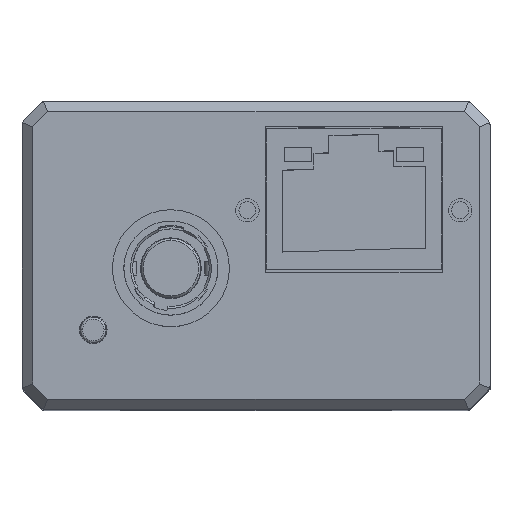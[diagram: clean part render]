
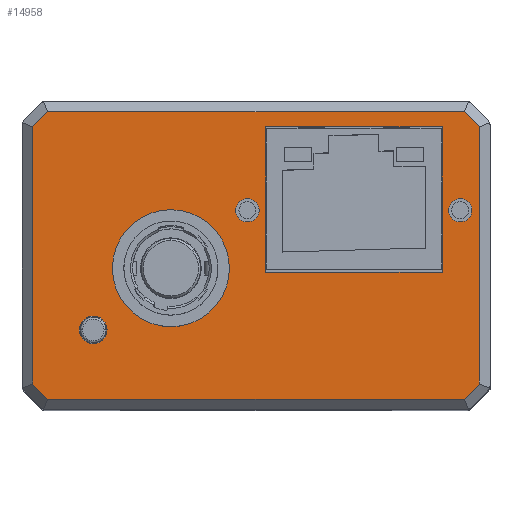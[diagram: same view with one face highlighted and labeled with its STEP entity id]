
A CAD part, top view. The second image highlights one B-rep face of the part: STEP entity #14958.
In plain terms, the highlighted planar face has unit normal (0, 0, 1).
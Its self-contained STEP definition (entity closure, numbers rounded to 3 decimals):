
#1079=DIRECTION('',(0.,-1.,0.));
#1080=VECTOR('',#1079,24.172);
#1081=CARTESIAN_POINT('',(-21.,12.086,59.));
#1082=LINE('',#1081,#1080);
#1367=DIRECTION('',(-0.707,-0.707,0.));
#1368=VECTOR('',#1367,2.);
#1369=CARTESIAN_POINT('',(21.,-12.086,59.));
#1370=LINE('',#1369,#1368);
#1371=DIRECTION('',(-1.,0.,0.));
#1372=VECTOR('',#1371,39.172);
#1373=CARTESIAN_POINT('',(19.586,-13.5,59.));
#1374=LINE('',#1373,#1372);
#1375=DIRECTION('',(-0.707,0.707,0.));
#1376=VECTOR('',#1375,2.);
#1377=CARTESIAN_POINT('',(-19.586,-13.5,59.));
#1378=LINE('',#1377,#1376);
#1379=DIRECTION('',(0.707,0.707,0.));
#1380=VECTOR('',#1379,2.);
#1381=CARTESIAN_POINT('',(-21.,12.086,59.));
#1382=LINE('',#1381,#1380);
#1383=DIRECTION('',(1.,0.,0.));
#1384=VECTOR('',#1383,39.172);
#1385=CARTESIAN_POINT('',(-19.586,13.5,59.));
#1386=LINE('',#1385,#1384);
#1387=DIRECTION('',(0.707,-0.707,0.));
#1388=VECTOR('',#1387,2.);
#1389=CARTESIAN_POINT('',(19.586,13.5,59.));
#1390=LINE('',#1389,#1388);
#1391=CARTESIAN_POINT('',(-0.804,4.25,59.));
#1392=DIRECTION('',(0.,0.,1.));
#1393=DIRECTION('',(1.,0.,0.));
#1394=AXIS2_PLACEMENT_3D('',#1391,#1392,#1393);
#1396=CARTESIAN_POINT('',(-0.804,4.25,59.));
#1397=DIRECTION('',(0.,0.,1.));
#1398=DIRECTION('',(-1.,0.,0.));
#1399=AXIS2_PLACEMENT_3D('',#1396,#1397,#1398);
#1401=CARTESIAN_POINT('',(19.196,4.25,59.));
#1402=DIRECTION('',(0.,0.,1.));
#1403=DIRECTION('',(1.,0.,0.));
#1404=AXIS2_PLACEMENT_3D('',#1401,#1402,#1403);
#1406=CARTESIAN_POINT('',(19.196,4.25,59.));
#1407=DIRECTION('',(0.,0.,1.));
#1408=DIRECTION('',(-1.,0.,0.));
#1409=AXIS2_PLACEMENT_3D('',#1406,#1407,#1408);
#1411=CARTESIAN_POINT('',(-15.3,-7.,59.));
#1412=DIRECTION('',(0.,0.,1.));
#1413=DIRECTION('',(1.,0.,0.));
#1414=AXIS2_PLACEMENT_3D('',#1411,#1412,#1413);
#1416=CARTESIAN_POINT('',(-15.3,-7.,59.));
#1417=DIRECTION('',(0.,0.,1.));
#1418=DIRECTION('',(-1.,0.,0.));
#1419=AXIS2_PLACEMENT_3D('',#1416,#1417,#1418);
#1421=CARTESIAN_POINT('',(-8.,-1.2,59.));
#1422=DIRECTION('',(0.,0.,1.));
#1423=DIRECTION('',(1.,0.,0.));
#1424=AXIS2_PLACEMENT_3D('',#1421,#1422,#1423);
#1426=CARTESIAN_POINT('',(-8.,-1.2,59.));
#1427=DIRECTION('',(0.,0.,1.));
#1428=DIRECTION('',(-1.,0.,0.));
#1429=AXIS2_PLACEMENT_3D('',#1426,#1427,#1428);
#1431=DIRECTION('',(0.,1.,0.));
#1432=VECTOR('',#1431,24.172);
#1433=CARTESIAN_POINT('',(21.,-12.086,59.));
#1434=LINE('',#1433,#1432);
#1531=DIRECTION('',(0.,-1.,0.));
#1532=VECTOR('',#1531,13.7);
#1533=CARTESIAN_POINT('',(17.5,12.1,59.));
#1534=LINE('',#1533,#1532);
#1591=DIRECTION('',(0.,1.,0.));
#1592=VECTOR('',#1591,13.7);
#1593=CARTESIAN_POINT('',(0.9,-1.6,59.));
#1594=LINE('',#1593,#1592);
#2347=DIRECTION('',(-1.,0.,0.));
#2348=VECTOR('',#2347,16.6);
#2349=CARTESIAN_POINT('',(17.5,-1.6,59.));
#2350=LINE('',#2349,#2348);
#2363=DIRECTION('',(1.,0.,0.));
#2364=VECTOR('',#2363,16.6);
#2365=CARTESIAN_POINT('',(0.9,12.1,59.));
#2366=LINE('',#2365,#2364);
#10546=CARTESIAN_POINT('',(19.586,-13.5,59.));
#10547=CARTESIAN_POINT('',(-19.586,-13.5,59.));
#10548=VERTEX_POINT('',#10546);
#10549=VERTEX_POINT('',#10547);
#10552=CARTESIAN_POINT('',(-21.,-12.086,59.));
#10553=VERTEX_POINT('',#10552);
#10722=CARTESIAN_POINT('',(21.,12.086,59.));
#10723=VERTEX_POINT('',#10722);
#10724=CARTESIAN_POINT('',(19.586,13.5,59.));
#10725=VERTEX_POINT('',#10724);
#10732=CARTESIAN_POINT('',(-19.586,13.5,59.));
#10733=VERTEX_POINT('',#10732);
#10766=CARTESIAN_POINT('',(-21.,12.086,59.));
#10768=VERTEX_POINT('',#10766);
#10770=CARTESIAN_POINT('',(21.,-12.086,59.));
#10771=VERTEX_POINT('',#10770);
#10772=CARTESIAN_POINT('',(0.296,4.25,59.));
#10773=CARTESIAN_POINT('',(-1.904,4.25,59.));
#10774=VERTEX_POINT('',#10772);
#10775=VERTEX_POINT('',#10773);
#10776=CARTESIAN_POINT('',(20.296,4.25,59.));
#10777=CARTESIAN_POINT('',(18.096,4.25,59.));
#10778=VERTEX_POINT('',#10776);
#10779=VERTEX_POINT('',#10777);
#10780=CARTESIAN_POINT('',(-14.,-7.,59.));
#10781=CARTESIAN_POINT('',(-16.6,-7.,59.));
#10782=VERTEX_POINT('',#10780);
#10783=VERTEX_POINT('',#10781);
#10784=CARTESIAN_POINT('',(-2.5,-1.2,59.));
#10785=CARTESIAN_POINT('',(-13.5,-1.2,59.));
#10786=VERTEX_POINT('',#10784);
#10787=VERTEX_POINT('',#10785);
#11418=CARTESIAN_POINT('',(17.5,12.1,59.));
#11419=CARTESIAN_POINT('',(17.5,-1.6,59.));
#11420=VERTEX_POINT('',#11418);
#11421=VERTEX_POINT('',#11419);
#11502=CARTESIAN_POINT('',(0.9,-1.6,59.));
#11503=CARTESIAN_POINT('',(0.9,12.1,59.));
#11504=VERTEX_POINT('',#11502);
#11505=VERTEX_POINT('',#11503);
#14906=CARTESIAN_POINT('',(0.,0.,59.));
#14907=DIRECTION('',(0.,0.,1.));
#14908=DIRECTION('',(1.,0.,0.));
#14909=AXIS2_PLACEMENT_3D('',#14906,#14907,#14908);
#14910=PLANE('',#14909);
#14912=ORIENTED_EDGE('',*,*,#14911,.F.);
#14914=ORIENTED_EDGE('',*,*,#14913,.T.);
#14916=ORIENTED_EDGE('',*,*,#14915,.T.);
#14917=ORIENTED_EDGE('',*,*,#14897,.T.);
#14918=ORIENTED_EDGE('',*,*,#14577,.F.);
#14919=ORIENTED_EDGE('',*,*,#14608,.T.);
#14920=ORIENTED_EDGE('',*,*,#14626,.T.);
#14921=ORIENTED_EDGE('',*,*,#14643,.T.);
#14922=EDGE_LOOP('',(#14912,#14914,#14916,#14917,#14918,#14919,#14920,#14921));
#14923=FACE_OUTER_BOUND('',#14922,.F.);
#14925=ORIENTED_EDGE('',*,*,#14924,.F.);
#14927=ORIENTED_EDGE('',*,*,#14926,.F.);
#14929=ORIENTED_EDGE('',*,*,#14928,.F.);
#14931=ORIENTED_EDGE('',*,*,#14930,.F.);
#14932=EDGE_LOOP('',(#14925,#14927,#14929,#14931));
#14933=FACE_BOUND('',#14932,.F.);
#14935=ORIENTED_EDGE('',*,*,#14934,.T.);
#14937=ORIENTED_EDGE('',*,*,#14936,.T.);
#14938=EDGE_LOOP('',(#14935,#14937));
#14939=FACE_BOUND('',#14938,.F.);
#14941=ORIENTED_EDGE('',*,*,#14940,.T.);
#14943=ORIENTED_EDGE('',*,*,#14942,.T.);
#14944=EDGE_LOOP('',(#14941,#14943));
#14945=FACE_BOUND('',#14944,.F.);
#14947=ORIENTED_EDGE('',*,*,#14946,.T.);
#14949=ORIENTED_EDGE('',*,*,#14948,.T.);
#14950=EDGE_LOOP('',(#14947,#14949));
#14951=FACE_BOUND('',#14950,.F.);
#14953=ORIENTED_EDGE('',*,*,#14952,.T.);
#14955=ORIENTED_EDGE('',*,*,#14954,.T.);
#14956=EDGE_LOOP('',(#14953,#14955));
#14957=FACE_BOUND('',#14956,.F.);
#14958=ADVANCED_FACE('',(#14923,#14933,#14939,#14945,#14951,#14957),#14910,.T.);
#1395=CIRCLE('',#1394,1.1);
#1400=CIRCLE('',#1399,1.1);
#1405=CIRCLE('',#1404,1.1);
#1410=CIRCLE('',#1409,1.1);
#1415=CIRCLE('',#1414,1.3);
#1420=CIRCLE('',#1419,1.3);
#1425=CIRCLE('',#1424,5.5);
#1430=CIRCLE('',#1429,5.5);
#14577=EDGE_CURVE('',#10768,#10553,#1082,.T.);
#14608=EDGE_CURVE('',#10768,#10733,#1382,.T.);
#14626=EDGE_CURVE('',#10733,#10725,#1386,.T.);
#14643=EDGE_CURVE('',#10725,#10723,#1390,.T.);
#14897=EDGE_CURVE('',#10549,#10553,#1378,.T.);
#14911=EDGE_CURVE('',#10771,#10723,#1434,.T.);
#14913=EDGE_CURVE('',#10771,#10548,#1370,.T.);
#14915=EDGE_CURVE('',#10548,#10549,#1374,.T.);
#14924=EDGE_CURVE('',#11420,#11421,#1534,.T.);
#14926=EDGE_CURVE('',#11505,#11420,#2366,.T.);
#14928=EDGE_CURVE('',#11504,#11505,#1594,.T.);
#14930=EDGE_CURVE('',#11421,#11504,#2350,.T.);
#14934=EDGE_CURVE('',#10774,#10775,#1395,.T.);
#14936=EDGE_CURVE('',#10775,#10774,#1400,.T.);
#14940=EDGE_CURVE('',#10778,#10779,#1405,.T.);
#14942=EDGE_CURVE('',#10779,#10778,#1410,.T.);
#14946=EDGE_CURVE('',#10782,#10783,#1415,.T.);
#14948=EDGE_CURVE('',#10783,#10782,#1420,.T.);
#14952=EDGE_CURVE('',#10786,#10787,#1425,.T.);
#14954=EDGE_CURVE('',#10787,#10786,#1430,.T.);
